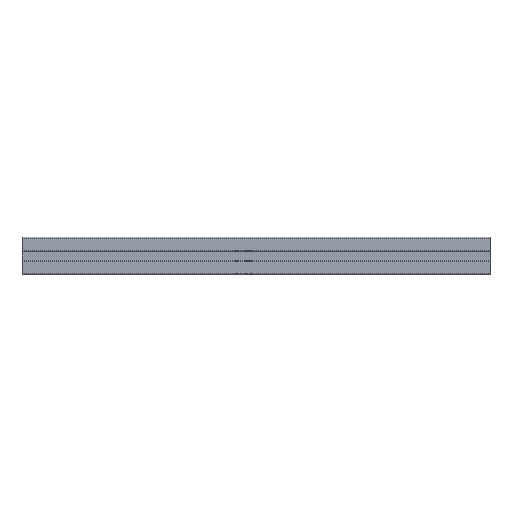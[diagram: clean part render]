
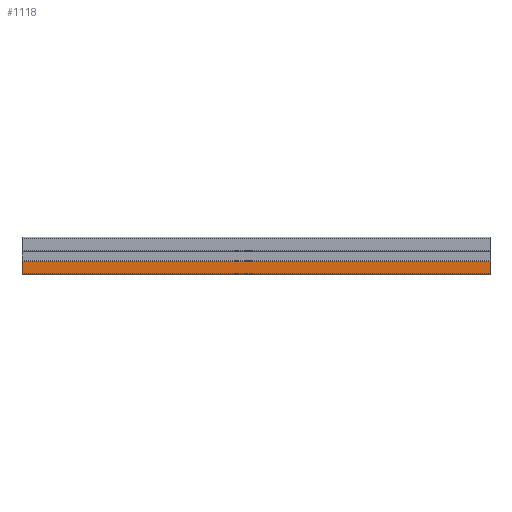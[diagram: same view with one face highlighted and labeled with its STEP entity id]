
A CAD part, left-side view. The second image highlights one B-rep face of the part: STEP entity #1118.
In plain terms, the highlighted planar face has unit normal (-1, 0, 0).
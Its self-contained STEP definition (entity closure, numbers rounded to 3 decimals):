
#139 = DIRECTION ( 'NONE',  ( 0., 0., 1. ) ) ;
#140 = VECTOR ( 'NONE', #139, 1000. ) ;
#147 = CARTESIAN_POINT ( 'NONE',  ( -20., 0., -5.6 ) ) ;
#148 = LINE ( 'NONE', #147, #140 ) ;
#356 = CARTESIAN_POINT ( 'NONE',  ( -20., 0., -19. ) ) ;
#450 = CARTESIAN_POINT ( 'NONE',  ( -20., 0., -5.6 ) ) ;
#510 = VERTEX_POINT ( 'NONE', #1645 ) ;
#522 = EDGE_CURVE ( 'NONE', #510, #528, #1725, .T. ) ;
#528 = VERTEX_POINT ( 'NONE', #1726 ) ;
#841 = EDGE_CURVE ( 'NONE', #954, #1036, #148, .T. ) ;
#954 = VERTEX_POINT ( 'NONE', #356 ) ;
#1036 = VERTEX_POINT ( 'NONE', #450 ) ;
#1102 = EDGE_CURVE ( 'NONE', #510, #954, #3005, .T. ) ;
#1107 = ORIENTED_EDGE ( 'NONE', *, *, #841, .T. ) ;
#1118 = ADVANCED_FACE ( 'NONE', ( #2165 ), #2116, .F. ) ;
#1119 = EDGE_CURVE ( 'NONE', #528, #1036, #2179, .T. ) ;
#1230 = ORIENTED_EDGE ( 'NONE', *, *, #1119, .F. ) ;
#1231 = EDGE_LOOP ( 'NONE', ( #1107, #1230, #1277, #1276 ) ) ;
#1276 = ORIENTED_EDGE ( 'NONE', *, *, #1102, .T. ) ;
#1277 = ORIENTED_EDGE ( 'NONE', *, *, #522, .F. ) ;
#1645 = CARTESIAN_POINT ( 'NONE',  ( -20., 500., -19. ) ) ;
#1717 = DIRECTION ( 'NONE',  ( 0., 0., 1. ) ) ;
#1718 = VECTOR ( 'NONE', #1717, 1000. ) ;
#1719 = CARTESIAN_POINT ( 'NONE',  ( -20., 500., -5.6 ) ) ;
#1725 = LINE ( 'NONE', #1719, #1718 ) ;
#1726 = CARTESIAN_POINT ( 'NONE',  ( -20., 500., -5.6 ) ) ;
#2116 = PLANE ( 'NONE',  #2208 ) ;
#2123 = DIRECTION ( 'NONE',  ( 1., 0., 0. ) ) ;
#2124 = CARTESIAN_POINT ( 'NONE',  ( -20., 500., -5.6 ) ) ;
#2134 = DIRECTION ( 'NONE',  ( 0., 0., -1. ) ) ;
#2135 = VECTOR ( 'NONE', #2173, 1000. ) ;
#2136 = CARTESIAN_POINT ( 'NONE',  ( -20., 500., -5.6 ) ) ;
#2165 = FACE_OUTER_BOUND ( 'NONE', #1231, .T. ) ;
#2173 = DIRECTION ( 'NONE',  ( 0., -1., 0. ) ) ;
#2179 = LINE ( 'NONE', #2136, #2135 ) ;
#2208 = AXIS2_PLACEMENT_3D ( 'NONE', #2124, #2123, #2134 ) ;
#2990 = DIRECTION ( 'NONE',  ( 0., -1., 0. ) ) ;
#2996 = VECTOR ( 'NONE', #2990, 1000. ) ;
#3005 = LINE ( 'NONE', #3076, #2996 ) ;
#3076 = CARTESIAN_POINT ( 'NONE',  ( -20., 500., -19. ) ) ;
